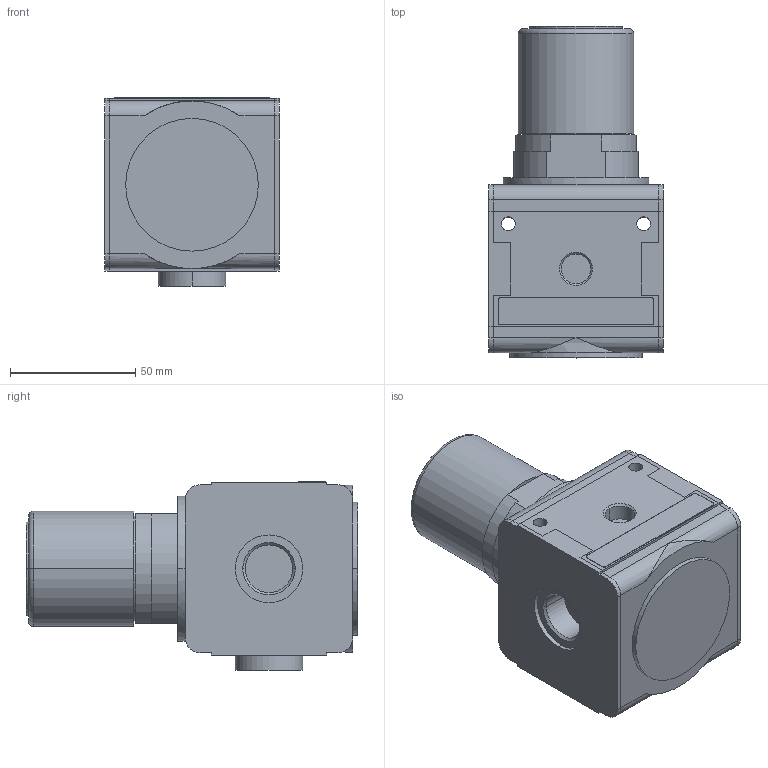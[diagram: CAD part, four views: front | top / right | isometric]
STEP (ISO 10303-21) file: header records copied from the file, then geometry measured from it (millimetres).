
FILE_DESCRIPTION((''),'2;1');
FILE_NAME('0821302525_ASM','2019-03-21T',('hug2hc'),(''),'CREO PARAMETRIC BY PTC INC, 2016260','CREO PARAMETRIC BY PTC INC, 2016260','');
FILE_SCHEMA(('CONFIG_CONTROL_DESIGN'));
Length unit declared in the file: millimetre
Products named in the file (3): 0821302525; 0821302525-B; 0821302525_ASM
Assembly tree (3 placements, depth 2):
  0821302525_ASM
    0821302525
    0821302525-B  x2
Bounding box: 69.6 x 132.5 x 75.2 mm (x, y, z)
Volume: 421390.8 mm3; surface area: 60817 mm2
Topology: 3 solids, 3 shells, 169 faces, 440 edges, 288 vertices
Faces by surface type: plane 103, cylinder 56, cone 8, torus 2
Entity records: 4467 total; most frequent: CARTESIAN_POINT 819, DIRECTION 764, ORIENTED_EDGE 724, EDGE_CURVE 362, AXIS2_PLACEMENT_3D 259, VECTOR 246, LINE 246, VERTEX_POINT 236
